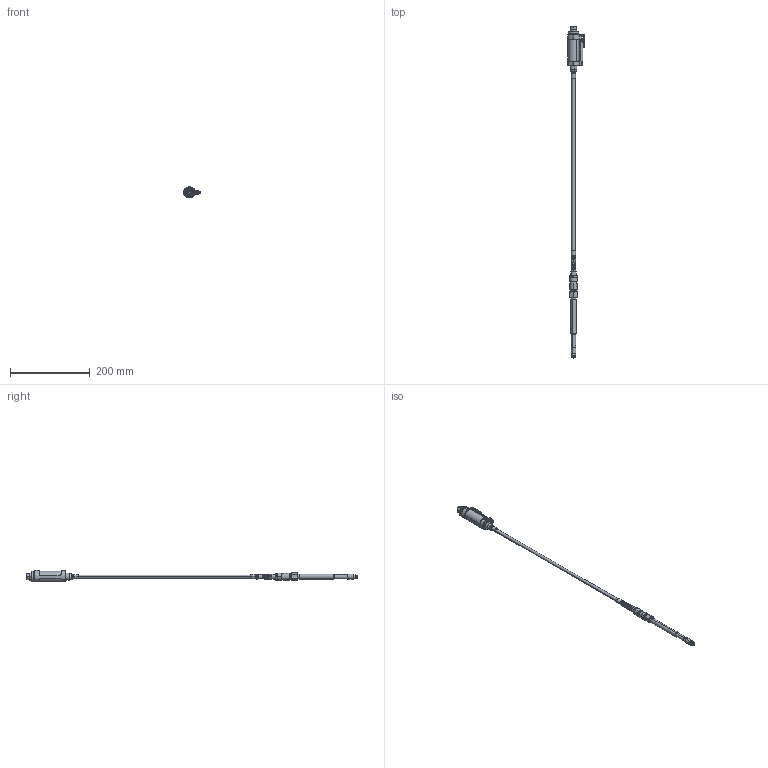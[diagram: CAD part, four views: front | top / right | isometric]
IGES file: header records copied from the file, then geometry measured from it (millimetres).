
Start section: SolidWorks IGES file using analytic representation for surfaces
Global section: file name: V:\Disegni Catalogo\Pressione\IE\IE-M\3D\Iges\IE1-M.IGS; native system: SolidWorks 2007; preprocessor: SolidWorks 2007; author: Cherchi; date: 071206.162758; units: millimetre
Bounding box: 41.99 x 833.22 x 29.75 mm (x, y, z)
Surface area: 79223.8 mm2 (no closed solid volume)
Topology: 0 solids, 0 shells, 2311 faces, 21326 edges, 21199 vertices
Faces by surface type: bspline 1477, revolution 834
